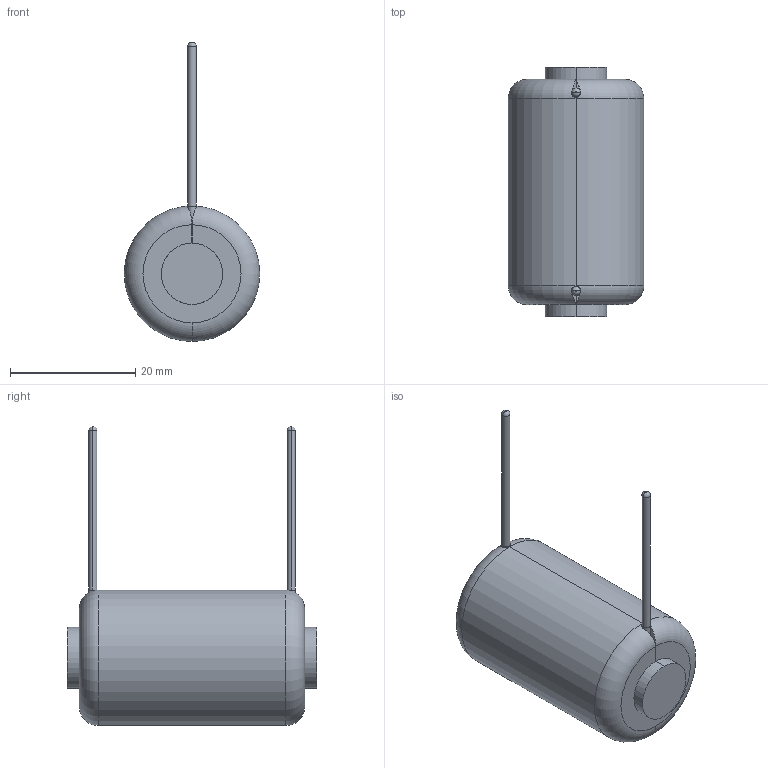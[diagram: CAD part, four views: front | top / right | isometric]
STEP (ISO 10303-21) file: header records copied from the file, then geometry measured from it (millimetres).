
FILE_DESCRIPTION (( 'STEP AP203' ), '1' );
FILE_NAME ('J-5514.STEP', '2020-09-21T14:09:19', ( 'Windows User' ), ( '' ), 'SwSTEP 2.0', 'SolidWorks 2015', '' );
FILE_SCHEMA (( 'CONFIG_CONTROL_DESIGN' ));
Length unit declared in the file: inch
Products named in the file (4): J-5514 - CORE; J-5514 - TUBING; J-5514; J-5514 - COIL
Assembly tree (3 placements, depth 2):
  J-5514
    J-5514 - CORE
    J-5514 - COIL
    J-5514 - TUBING
Bounding box: 21.68 x 39.92 x 47.84 mm (x, y, z)
Volume: 11725.4 mm3; surface area: 18477.4 mm2
Topology: 7 solids, 7 shells, 70 faces, 158 edges, 100 vertices
Faces by surface type: cylinder 20, plane 20, bspline 18, torus 12
Entity records: 19938 total; most frequent: CARTESIAN_POINT 18130, ORIENTED_EDGE 316, DIRECTION 266, EDGE_CURVE 158, AXIS2_PLACEMENT_3D 119, VERTEX_POINT 100, EDGE_LOOP 74, FACE_OUTER_BOUND 70
